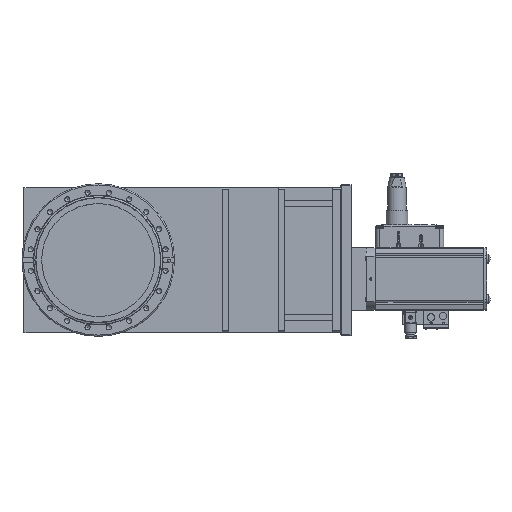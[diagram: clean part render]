
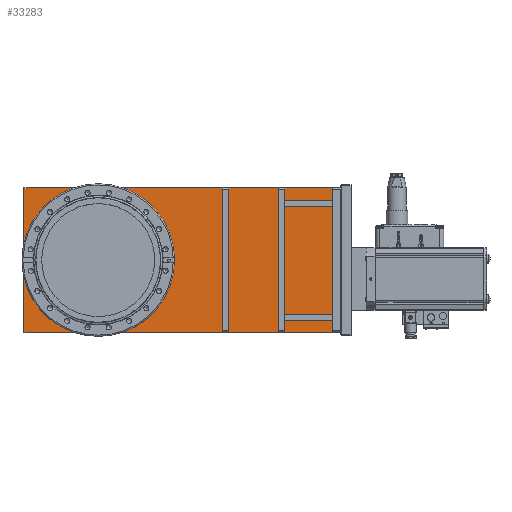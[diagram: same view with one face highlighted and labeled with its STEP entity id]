
A CAD part, top view. The second image highlights one B-rep face of the part: STEP entity #33283.
In plain terms, the highlighted planar face has unit normal (0, 0, 1).
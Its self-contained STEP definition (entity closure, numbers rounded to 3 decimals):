
#21388=PLANE('',#74745);
#25433=LINE('',#119055,#29901);
#25435=LINE('',#119059,#29903);
#25437=LINE('',#119063,#29905);
#25439=LINE('',#119067,#29907);
#29901=VECTOR('',#87527,1.);
#29903=VECTOR('',#87531,1.);
#29905=VECTOR('',#87535,1.);
#29907=VECTOR('',#87539,1.);
#33283=ADVANCED_FACE('',(#36034,#36035),#21388,.F.);
#36034=FACE_BOUND('',#39857,.T.);
#36035=FACE_BOUND('',#39858,.T.);
#39857=EDGE_LOOP('',(#53616));
#39858=EDGE_LOOP('',(#53617,#53618,#53619,#53620));
#53616=ORIENTED_EDGE('',*,*,#67816,.T.);
#53617=ORIENTED_EDGE('',*,*,#67809,.F.);
#53618=ORIENTED_EDGE('',*,*,#67807,.T.);
#53619=ORIENTED_EDGE('',*,*,#67813,.F.);
#53620=ORIENTED_EDGE('',*,*,#67811,.F.);
#60480=VERTEX_POINT('',#119054);
#60481=VERTEX_POINT('',#119056);
#60482=VERTEX_POINT('',#119060);
#60483=VERTEX_POINT('',#119064);
#60486=VERTEX_POINT('',#119075);
#67807=EDGE_CURVE('',#60481,#60480,#25433,.T.);
#67809=EDGE_CURVE('',#60481,#60482,#25435,.T.);
#67811=EDGE_CURVE('',#60482,#60483,#25437,.T.);
#67813=EDGE_CURVE('',#60483,#60480,#25439,.T.);
#67816=EDGE_CURVE('',#60486,#60486,#70392,.T.);
#70392=CIRCLE('',#74744,75.3);
#74744=AXIS2_PLACEMENT_3D('',#119074,#87548,#87549);
#74745=AXIS2_PLACEMENT_3D('',#119076,#87550,#87551);
#87527=DIRECTION('',(0.,1.,0.));
#87531=DIRECTION('',(-1.,0.,0.));
#87535=DIRECTION('',(0.,1.,0.));
#87539=DIRECTION('',(1.,0.,0.));
#87548=DIRECTION('',(0.,0.,-1.));
#87549=DIRECTION('',(0.,1.,0.));
#87550=DIRECTION('',(0.,0.,-1.));
#87551=DIRECTION('',(0.,1.,0.));
#119054=CARTESIAN_POINT('',(322.3,96.225,27.));
#119055=CARTESIAN_POINT('',(322.3,0.,27.));
#119056=CARTESIAN_POINT('',(322.3,-96.225,27.));
#119059=CARTESIAN_POINT('',(323.6,-96.225,27.));
#119060=CARTESIAN_POINT('',(-98.55,-96.225,27.));
#119063=CARTESIAN_POINT('',(-98.55,-96.225,27.));
#119064=CARTESIAN_POINT('',(-98.55,96.225,27.));
#119067=CARTESIAN_POINT('',(-98.55,96.225,27.));
#119074=CARTESIAN_POINT('',(0.,0.,
27.));
#119075=CARTESIAN_POINT('',(0.,75.3,27.));
#119076=CARTESIAN_POINT('',(0.,0.,
27.));
